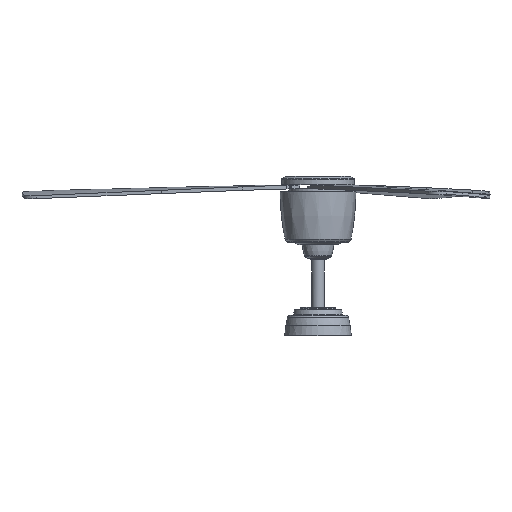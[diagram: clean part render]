
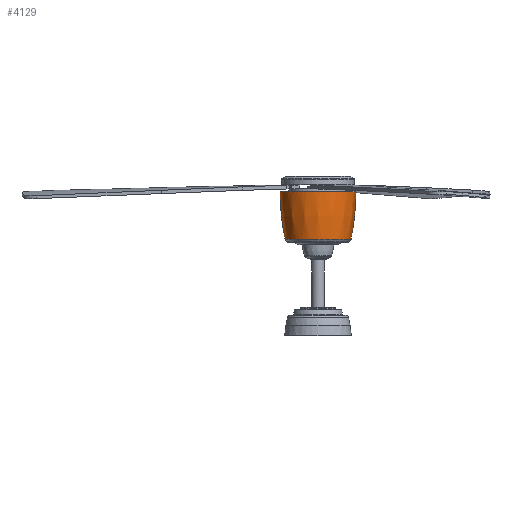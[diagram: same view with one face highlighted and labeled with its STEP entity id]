
A CAD part, left-side view. The second image highlights one B-rep face of the part: STEP entity #4129.
In plain terms, the highlighted free-form (B-spline) face has degree [2, 2] with [3, 5] control points.
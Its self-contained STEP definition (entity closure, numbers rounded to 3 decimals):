
#25=(
BOUNDED_SURFACE()
B_SPLINE_SURFACE(2,2,((#15427,#15428,#15429,#15430,#15431),(#15432,#15433,
#15434,#15435,#15436),(#15437,#15438,#15439,#15440,#15441)),
 .UNSPECIFIED.,.F.,.F.,.F.)
B_SPLINE_SURFACE_WITH_KNOTS((3,3),(3,2,3),(-0.21,0.006),
(-1.571,0.,1.571),.UNSPECIFIED.)
GEOMETRIC_REPRESENTATION_ITEM()
RATIONAL_B_SPLINE_SURFACE(((1.,0.707,1.,0.707,1.),
(0.994,0.703,0.994,0.703,
0.994),(1.,0.707,1.,0.707,1.)))
REPRESENTATION_ITEM('')
SURFACE()
);
#120=CIRCLE('',#4394,465.871);
#121=CIRCLE('',#4395,465.871);
#407=FACE_OUTER_BOUND('',#647,.T.);
#647=EDGE_LOOP('',(#3420,#3421,#3422,#3423));
#1331=B_SPLINE_CURVE_WITH_KNOTS('',3,(#15386,#15387,#15388,#15389,#15390,
#15391,#15392,#15393,#15394,#15395,#15396),.UNSPECIFIED.,.F.,.F.,(4,1,1,
1,1,1,1,1,4),(0.,0.125,0.25,0.375,0.5,0.625,0.75,0.875,1.),
 .UNSPECIFIED.);
#1333=B_SPLINE_CURVE_WITH_KNOTS('',3,(#15442,#15443,#15444,#15445,#15446,
#15447,#15448,#15449,#15450,#15451,#15452),.UNSPECIFIED.,.F.,.F.,(4,1,1,
1,1,1,1,1,4),(0.,0.125,0.25,0.375,0.5,0.625,0.75,0.875,1.),
 .UNSPECIFIED.);
#1770=VERTEX_POINT('',#15268);
#1771=VERTEX_POINT('',#15321);
#1772=VERTEX_POINT('',#15412);
#1773=VERTEX_POINT('',#15414);
#2351=EDGE_CURVE('',#1770,#1771,#1331,.T.);
#2352=EDGE_CURVE('',#1772,#1770,#120,.T.);
#2354=EDGE_CURVE('',#1771,#1773,#121,.T.);
#2355=EDGE_CURVE('',#1772,#1773,#1333,.T.);
#3420=ORIENTED_EDGE('',*,*,#2351,.T.);
#3421=ORIENTED_EDGE('',*,*,#2354,.T.);
#3422=ORIENTED_EDGE('',*,*,#2355,.F.);
#3423=ORIENTED_EDGE('',*,*,#2352,.T.);
#4129=ADVANCED_FACE('',(#407),#25,.F.);
#4394=AXIS2_PLACEMENT_3D('',#15413,#5043,#5044);
#4395=AXIS2_PLACEMENT_3D('',#15426,#5045,#5046);
#5043=DIRECTION('center_axis',(-1.,0.,0.));
#5044=DIRECTION('ref_axis',(0.,-1.,0.));
#5045=DIRECTION('center_axis',(-1.,0.,0.));
#5046=DIRECTION('ref_axis',(0.,1.,0.));
#15268=CARTESIAN_POINT('',(0.,-79.884,303.629));
#15321=CARTESIAN_POINT('',(0.,79.884,303.629));
#15386=CARTESIAN_POINT('Ctrl Pts',(0.,-79.884,
303.629));
#15387=CARTESIAN_POINT('Ctrl Pts',(-10.499,-79.989,
303.629));
#15388=CARTESIAN_POINT('Ctrl Pts',(-31.346,-75.676,
303.629));
#15389=CARTESIAN_POINT('Ctrl Pts',(-57.963,-57.97,
303.629));
#15390=CARTESIAN_POINT('Ctrl Pts',(-75.723,-31.363,
303.629));
#15391=CARTESIAN_POINT('Ctrl Pts',(-81.965,0.,
303.629));
#15392=CARTESIAN_POINT('Ctrl Pts',(-75.723,31.363,303.629));
#15393=CARTESIAN_POINT('Ctrl Pts',(-57.963,57.97,303.629));
#15394=CARTESIAN_POINT('Ctrl Pts',(-31.346,75.676,303.629));
#15395=CARTESIAN_POINT('Ctrl Pts',(-10.499,79.989,303.629));
#15396=CARTESIAN_POINT('Ctrl Pts',(0.,79.884,
303.629));
#15412=CARTESIAN_POINT('',(0.,-69.686,203.8));
#15413=CARTESIAN_POINT('Origin',(0.,385.978,
300.783));
#15414=CARTESIAN_POINT('',(0.,69.686,203.8));
#15426=CARTESIAN_POINT('Origin',(0.,-385.978,
300.783));
#15427=CARTESIAN_POINT('Ctrl Pts',(0.,69.685,
203.795));
#15428=CARTESIAN_POINT('Ctrl Pts',(-69.685,69.685,203.795));
#15429=CARTESIAN_POINT('Ctrl Pts',(-69.685,0.,
203.795));
#15430=CARTESIAN_POINT('Ctrl Pts',(-69.685,-69.685,203.795));
#15431=CARTESIAN_POINT('Ctrl Pts',(0.,-69.685,
203.795));
#15432=CARTESIAN_POINT('Ctrl Pts',(0.,80.192,
253.159));
#15433=CARTESIAN_POINT('Ctrl Pts',(-80.192,80.192,253.159));
#15434=CARTESIAN_POINT('Ctrl Pts',(-80.192,0.,
253.159));
#15435=CARTESIAN_POINT('Ctrl Pts',(-80.192,-80.192,
253.159));
#15436=CARTESIAN_POINT('Ctrl Pts',(0.,-80.192,
253.159));
#15437=CARTESIAN_POINT('Ctrl Pts',(0.,79.884,
303.629));
#15438=CARTESIAN_POINT('Ctrl Pts',(-79.884,79.884,303.629));
#15439=CARTESIAN_POINT('Ctrl Pts',(-79.884,0.,
303.629));
#15440=CARTESIAN_POINT('Ctrl Pts',(-79.884,-79.884,
303.629));
#15441=CARTESIAN_POINT('Ctrl Pts',(0.,-79.884,
303.629));
#15442=CARTESIAN_POINT('Ctrl Pts',(0.,-69.686,
203.8));
#15443=CARTESIAN_POINT('Ctrl Pts',(-9.159,-69.778,
203.8));
#15444=CARTESIAN_POINT('Ctrl Pts',(-27.344,-66.015,
203.8));
#15445=CARTESIAN_POINT('Ctrl Pts',(-50.563,-50.57,203.8));
#15446=CARTESIAN_POINT('Ctrl Pts',(-66.056,-27.359,203.8));
#15447=CARTESIAN_POINT('Ctrl Pts',(-71.501,0.,
203.8));
#15448=CARTESIAN_POINT('Ctrl Pts',(-66.056,27.359,203.8));
#15449=CARTESIAN_POINT('Ctrl Pts',(-50.563,50.57,203.8));
#15450=CARTESIAN_POINT('Ctrl Pts',(-27.344,66.015,203.8));
#15451=CARTESIAN_POINT('Ctrl Pts',(-9.159,69.778,203.8));
#15452=CARTESIAN_POINT('Ctrl Pts',(0.,69.686,
203.8));
